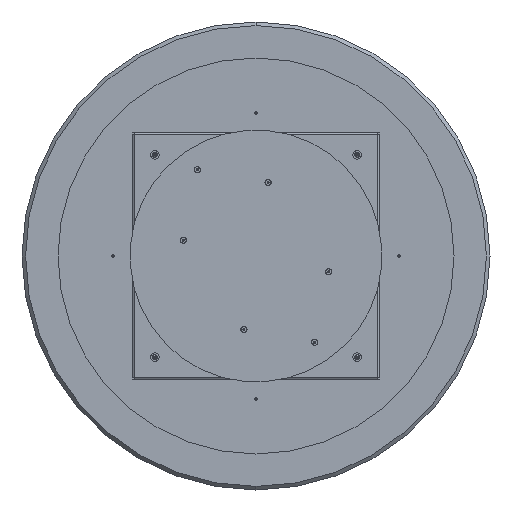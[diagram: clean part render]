
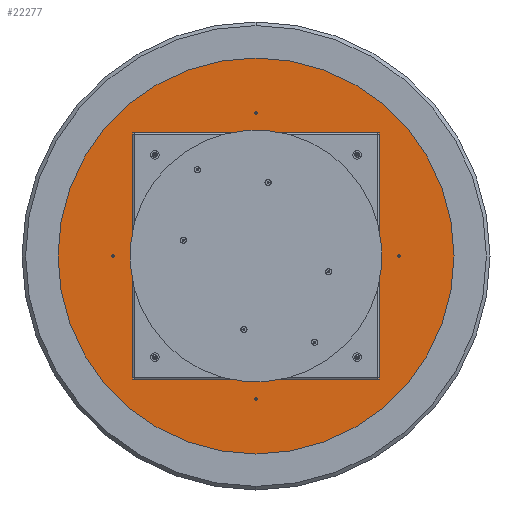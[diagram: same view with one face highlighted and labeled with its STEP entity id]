
A CAD part, front view. The second image highlights one B-rep face of the part: STEP entity #22277.
In plain terms, the highlighted planar face has unit normal (0, -1, 0).
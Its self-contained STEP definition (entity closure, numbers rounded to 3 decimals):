
#74 = DIRECTION ( 'NONE',  ( 0., 0., -1. ) ) ;
#132 = CIRCLE ( 'NONE', #4083, 550. ) ;
#261 = ORIENTED_EDGE ( 'NONE', *, *, #7590, .F. ) ;
#679 = EDGE_LOOP ( 'NONE', ( #14743, #15277 ) ) ;
#911 = EDGE_LOOP ( 'NONE', ( #3292, #16377 ) ) ;
#1031 = CIRCLE ( 'NONE', #21112, 3.4 ) ;
#1410 = DIRECTION ( 'NONE',  ( 0., 0., 1. ) ) ;
#1527 = DIRECTION ( 'NONE',  ( 0., -1., 0. ) ) ;
#1595 = CARTESIAN_POINT ( 'NONE',  ( 0., 0., -400.9 ) ) ;
#1725 = AXIS2_PLACEMENT_3D ( 'NONE', #22762, #2300, #74 ) ;
#1778 = VERTEX_POINT ( 'NONE', #21441 ) ;
#1939 = EDGE_CURVE ( 'NONE', #16343, #23239, #1031, .T. ) ;
#1975 = CIRCLE ( 'NONE', #12609, 3.4 ) ;
#2049 = DIRECTION ( 'NONE',  ( 0., -1., 0. ) ) ;
#2294 = CARTESIAN_POINT ( 'NONE',  ( 0., 0., 0. ) ) ;
#2300 = DIRECTION ( 'NONE',  ( 0., -1., 0. ) ) ;
#2530 = EDGE_CURVE ( 'NONE', #8094, #4956, #6091, .T. ) ;
#2794 = CARTESIAN_POINT ( 'NONE',  ( -397.5, 0., 3.4 ) ) ;
#3120 = DIRECTION ( 'NONE',  ( 0., -1., 0. ) ) ;
#3125 = CIRCLE ( 'NONE', #20838, 6.3 ) ;
#3205 = DIRECTION ( 'NONE',  ( 0., -1., 0. ) ) ;
#3269 = DIRECTION ( 'NONE',  ( 0., 1., 0. ) ) ;
#3292 = ORIENTED_EDGE ( 'NONE', *, *, #9682, .F. ) ;
#3419 = CARTESIAN_POINT ( 'NONE',  ( 397.5, 0., -3.4 ) ) ;
#4083 = AXIS2_PLACEMENT_3D ( 'NONE', #9756, #17276, #7903 ) ;
#4333 = ORIENTED_EDGE ( 'NONE', *, *, #6749, .F. ) ;
#4385 = DIRECTION ( 'NONE',  ( 0., -1., 0. ) ) ;
#4687 = DIRECTION ( 'NONE',  ( 0., 0., -1. ) ) ;
#4893 = ORIENTED_EDGE ( 'NONE', *, *, #2530, .F. ) ;
#4956 = VERTEX_POINT ( 'NONE', #16000 ) ;
#5365 = FACE_BOUND ( 'NONE', #911, .T. ) ;
#5663 = CARTESIAN_POINT ( 'NONE',  ( 0., 0., 397.5 ) ) ;
#5765 = ORIENTED_EDGE ( 'NONE', *, *, #10835, .F. ) ;
#5943 = CARTESIAN_POINT ( 'NONE',  ( 0., 0., 0. ) ) ;
#5974 = EDGE_CURVE ( 'NONE', #13882, #6625, #18854, .T. ) ;
#5995 = EDGE_LOOP ( 'NONE', ( #261, #19265 ) ) ;
#6058 = DIRECTION ( 'NONE',  ( 0., 0., -1. ) ) ;
#6091 = CIRCLE ( 'NONE', #15168, 6.3 ) ;
#6209 = AXIS2_PLACEMENT_3D ( 'NONE', #7061, #13222, #9276 ) ;
#6625 = VERTEX_POINT ( 'NONE', #3419 ) ;
#6719 = FACE_OUTER_BOUND ( 'NONE', #679, .T. ) ;
#6749 = EDGE_CURVE ( 'NONE', #4956, #8094, #3125, .T. ) ;
#7051 = AXIS2_PLACEMENT_3D ( 'NONE', #20016, #3120, #10641 ) ;
#7061 = CARTESIAN_POINT ( 'NONE',  ( 0., 0., 0. ) ) ;
#7079 = CARTESIAN_POINT ( 'NONE',  ( 0., 0., 394.1 ) ) ;
#7382 = CIRCLE ( 'NONE', #6209, 550. ) ;
#7507 = DIRECTION ( 'NONE',  ( 0., -1., 0. ) ) ;
#7590 = EDGE_CURVE ( 'NONE', #18445, #1778, #1975, .T. ) ;
#7903 = DIRECTION ( 'NONE',  ( 0., 0., 1. ) ) ;
#8094 = VERTEX_POINT ( 'NONE', #23255 ) ;
#8332 = VERTEX_POINT ( 'NONE', #11156 ) ;
#8518 = ORIENTED_EDGE ( 'NONE', *, *, #9026, .F. ) ;
#8535 = EDGE_CURVE ( 'NONE', #13909, #13140, #23984, .T. ) ;
#8820 = FACE_BOUND ( 'NONE', #5995, .T. ) ;
#8825 = AXIS2_PLACEMENT_3D ( 'NONE', #22137, #3269, #1410 ) ;
#9026 = EDGE_CURVE ( 'NONE', #23239, #16343, #10637, .T. ) ;
#9276 = DIRECTION ( 'NONE',  ( 0., 0., 1. ) ) ;
#9569 = DIRECTION ( 'NONE',  ( 0., 0., -1. ) ) ;
#9618 = CARTESIAN_POINT ( 'NONE',  ( 397.5, 0., 0. ) ) ;
#9682 = EDGE_CURVE ( 'NONE', #6625, #13882, #19313, .T. ) ;
#9756 = CARTESIAN_POINT ( 'NONE',  ( 0., 0., 0. ) ) ;
#9814 = ORIENTED_EDGE ( 'NONE', *, *, #1939, .F. ) ;
#10108 = DIRECTION ( 'NONE',  ( 0., -1., 0. ) ) ;
#10637 = CIRCLE ( 'NONE', #16157, 3.4 ) ;
#10641 = DIRECTION ( 'NONE',  ( 0., 0., -1. ) ) ;
#10835 = EDGE_CURVE ( 'NONE', #13140, #13909, #12678, .T. ) ;
#10897 = CARTESIAN_POINT ( 'NONE',  ( 0., 0., -394.1 ) ) ;
#10915 = FACE_BOUND ( 'NONE', #16316, .T. ) ;
#11029 = DIRECTION ( 'NONE',  ( 0., -1., 0. ) ) ;
#11156 = CARTESIAN_POINT ( 'NONE',  ( 0., 0., -550. ) ) ;
#11338 = VERTEX_POINT ( 'NONE', #18749 ) ;
#11427 = CARTESIAN_POINT ( 'NONE',  ( -397.5, 0., 0. ) ) ;
#11472 = DIRECTION ( 'NONE',  ( 0., 0., -1. ) ) ;
#11911 = DIRECTION ( 'NONE',  ( 0., 0., -1. ) ) ;
#12313 = CARTESIAN_POINT ( 'NONE',  ( -397.5, 0., 0. ) ) ;
#12397 = FACE_BOUND ( 'NONE', #16101, .T. ) ;
#12609 = AXIS2_PLACEMENT_3D ( 'NONE', #5663, #7507, #18848 ) ;
#12678 = CIRCLE ( 'NONE', #15837, 3.4 ) ;
#12741 = CARTESIAN_POINT ( 'NONE',  ( 397.5, 0., 3.4 ) ) ;
#12903 = EDGE_CURVE ( 'NONE', #8332, #11338, #132, .T. ) ;
#13140 = VERTEX_POINT ( 'NONE', #1595 ) ;
#13222 = DIRECTION ( 'NONE',  ( 0., 1., 0. ) ) ;
#13852 = EDGE_CURVE ( 'NONE', #11338, #8332, #7382, .T. ) ;
#13882 = VERTEX_POINT ( 'NONE', #12741 ) ;
#13909 = VERTEX_POINT ( 'NONE', #10897 ) ;
#14503 = PLANE ( 'NONE',  #8825 ) ;
#14743 = ORIENTED_EDGE ( 'NONE', *, *, #12903, .F. ) ;
#15168 = AXIS2_PLACEMENT_3D ( 'NONE', #5943, #15447, #6058 ) ;
#15277 = ORIENTED_EDGE ( 'NONE', *, *, #13852, .F. ) ;
#15447 = DIRECTION ( 'NONE',  ( 0., -1., 0. ) ) ;
#15837 = AXIS2_PLACEMENT_3D ( 'NONE', #23841, #1527, #17934 ) ;
#16000 = CARTESIAN_POINT ( 'NONE',  ( 0., 0., 6.3 ) ) ;
#16101 = EDGE_LOOP ( 'NONE', ( #9814, #8518 ) ) ;
#16157 = AXIS2_PLACEMENT_3D ( 'NONE', #11427, #2049, #9569 ) ;
#16316 = EDGE_LOOP ( 'NONE', ( #4893, #4333 ) ) ;
#16343 = VERTEX_POINT ( 'NONE', #17473 ) ;
#16377 = ORIENTED_EDGE ( 'NONE', *, *, #5974, .F. ) ;
#16539 = EDGE_LOOP ( 'NONE', ( #5765, #21714 ) ) ;
#17276 = DIRECTION ( 'NONE',  ( 0., 1., 0. ) ) ;
#17473 = CARTESIAN_POINT ( 'NONE',  ( -397.5, 0., -3.4 ) ) ;
#17663 = AXIS2_PLACEMENT_3D ( 'NONE', #21593, #3205, #4687 ) ;
#17934 = DIRECTION ( 'NONE',  ( 0., 0., -1. ) ) ;
#18445 = VERTEX_POINT ( 'NONE', #7079 ) ;
#18749 = CARTESIAN_POINT ( 'NONE',  ( 0., 0., 550. ) ) ;
#18848 = DIRECTION ( 'NONE',  ( 0., 0., -1. ) ) ;
#18854 = CIRCLE ( 'NONE', #17663, 3.4 ) ;
#19265 = ORIENTED_EDGE ( 'NONE', *, *, #21988, .F. ) ;
#19313 = CIRCLE ( 'NONE', #24019, 3.4 ) ;
#19835 = DIRECTION ( 'NONE',  ( 0., 0., -1. ) ) ;
#20016 = CARTESIAN_POINT ( 'NONE',  ( 0., 0., -397.5 ) ) ;
#20838 = AXIS2_PLACEMENT_3D ( 'NONE', #2294, #4385, #11911 ) ;
#21112 = AXIS2_PLACEMENT_3D ( 'NONE', #12313, #10108, #19835 ) ;
#21414 = CIRCLE ( 'NONE', #1725, 3.4 ) ;
#21441 = CARTESIAN_POINT ( 'NONE',  ( 0., 0., 400.9 ) ) ;
#21593 = CARTESIAN_POINT ( 'NONE',  ( 397.5, 0., 0. ) ) ;
#21714 = ORIENTED_EDGE ( 'NONE', *, *, #8535, .F. ) ;
#21988 = EDGE_CURVE ( 'NONE', #1778, #18445, #21414, .T. ) ;
#22137 = CARTESIAN_POINT ( 'NONE',  ( 0., 0., 0. ) ) ;
#22277 = ADVANCED_FACE ( 'NONE', ( #10915, #12397, #8820, #5365, #23849, #6719 ), #14503, .F. ) ;
#22762 = CARTESIAN_POINT ( 'NONE',  ( 0., 0., 397.5 ) ) ;
#23239 = VERTEX_POINT ( 'NONE', #2794 ) ;
#23255 = CARTESIAN_POINT ( 'NONE',  ( 0., 0., -6.3 ) ) ;
#23841 = CARTESIAN_POINT ( 'NONE',  ( 0., 0., -397.5 ) ) ;
#23849 = FACE_BOUND ( 'NONE', #16539, .T. ) ;
#23984 = CIRCLE ( 'NONE', #7051, 3.4 ) ;
#24019 = AXIS2_PLACEMENT_3D ( 'NONE', #9618, #11029, #11472 ) ;
